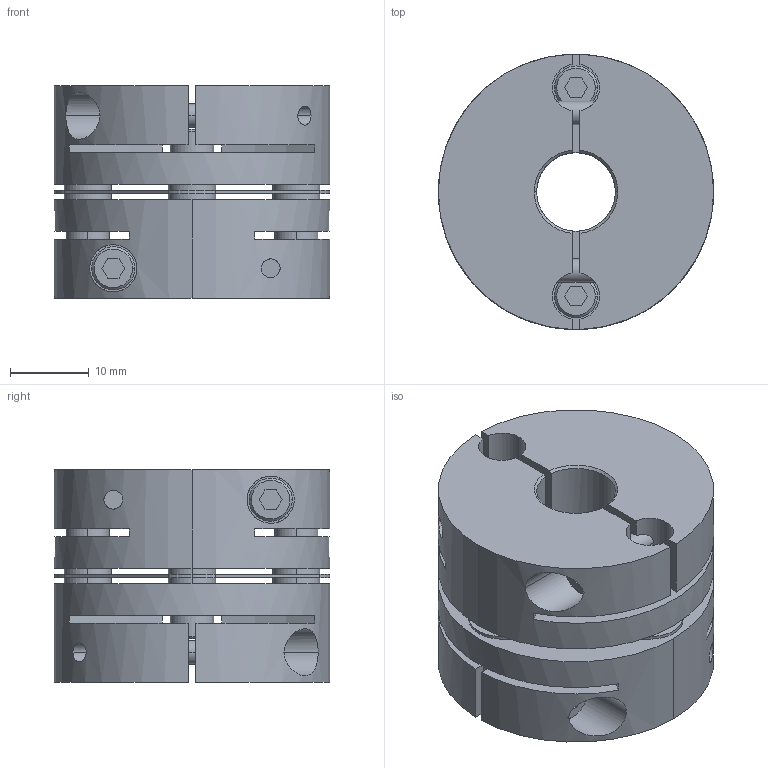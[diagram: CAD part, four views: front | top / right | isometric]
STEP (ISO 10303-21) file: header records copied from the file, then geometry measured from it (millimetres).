
FILE_DESCRIPTION((''),'2;1');
FILE_NAME('LAS-35C-10×10.stp','2011-08-10T16:36:56',(''),(''),'AutoCAD STEP 2000i','AutoCAD 2000i',', , ');
FILE_SCHEMA(('CONFIG_CONTROL_DESIGN'));
Length unit declared in the file: millimetre
Products named in the file (5): LAS-35C-8×8; 忣兜1; LA-3502-D08-1; LA-3502-D08; LAS35-ITA
Assembly tree (4 placements, depth 2):
  LAS-35C-8×8
    忣兜1
    LA-3502-D08-1
    LA-3502-D08
    LAS35-ITA
Bounding box: 35 x 35 x 27 mm (x, y, z)
Volume: 19808.1 mm3; surface area: 12099.3 mm2
Topology: 1 solids, 1 shells, 236 faces, 624 edges, 408 vertices
Faces by surface type: plane 112, cylinder 96, cone 28
Entity records: 8143 total; most frequent: CARTESIAN_POINT 1949, DIRECTION 1302, ORIENTED_EDGE 1248, EDGE_CURVE 624, AXIS2_PLACEMENT_3D 477, VERTEX_POINT 408, VECTOR 348, LINE 348
